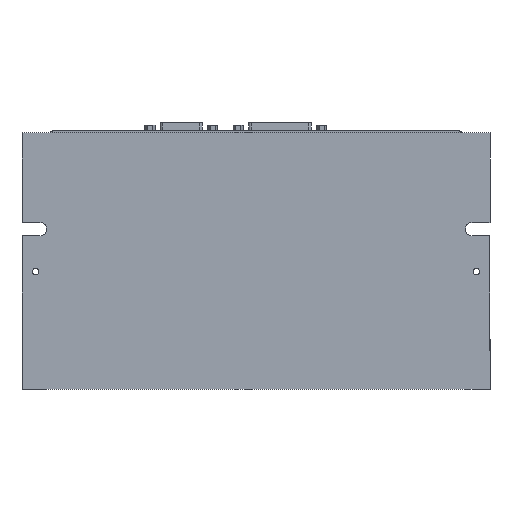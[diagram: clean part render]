
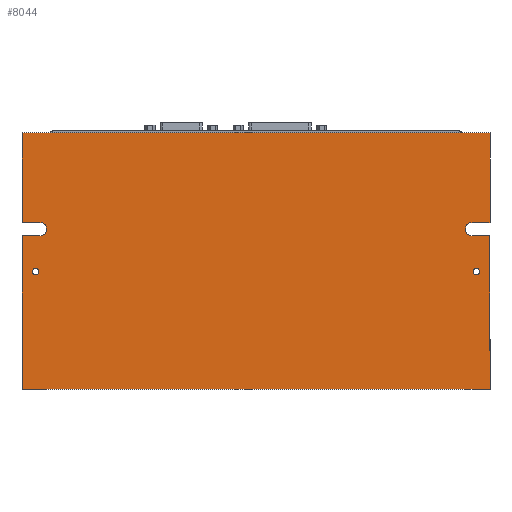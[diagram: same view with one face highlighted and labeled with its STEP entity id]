
A CAD part, front view. The second image highlights one B-rep face of the part: STEP entity #8044.
In plain terms, the highlighted planar face has unit normal (0, -1, 0).
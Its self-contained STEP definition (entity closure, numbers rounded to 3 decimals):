
#138 = DIRECTION ( 'NONE',  ( 1., 0., 0. ) ) ;
#825 = DIRECTION ( 'NONE',  ( 0., -1., 0. ) ) ;
#1340 = ORIENTED_EDGE ( 'NONE', *, *, #33786, .F. ) ;
#1751 = AXIS2_PLACEMENT_3D ( 'NONE', #5803, #41068, #12569 ) ;
#2174 = EDGE_CURVE ( 'NONE', #10850, #72133, #29163, .T. ) ;
#3463 = CIRCLE ( 'NONE', #70275, 1.25 ) ;
#3573 = CIRCLE ( 'NONE', #5235, 1.25 ) ;
#4003 = LINE ( 'NONE', #36769, #39832 ) ;
#4380 = CARTESIAN_POINT ( 'NONE',  ( 0., 0., 9.8 ) ) ;
#4472 = FACE_OUTER_BOUND ( 'NONE', #8499, .T. ) ;
#4654 = EDGE_CURVE ( 'NONE', #19236, #25587, #8131, .T. ) ;
#5012 = EDGE_CURVE ( 'NONE', #31204, #61179, #3463, .T. ) ;
#5235 = AXIS2_PLACEMENT_3D ( 'NONE', #22077, #50574, #51291 ) ;
#5406 = VECTOR ( 'NONE', #34246, 1000. ) ;
#5803 = CARTESIAN_POINT ( 'NONE',  ( 84.25, 0., 12.4 ) ) ;
#6163 = VERTEX_POINT ( 'NONE', #12063 ) ;
#6510 = ORIENTED_EDGE ( 'NONE', *, *, #13371, .F. ) ;
#6566 = DIRECTION ( 'NONE',  ( 0., 0., -1. ) ) ;
#6579 = DIRECTION ( 'NONE',  ( 0., 0., -1. ) ) ;
#7094 = AXIS2_PLACEMENT_3D ( 'NONE', #12106, #17901, #12344 ) ;
#8044 = ADVANCED_FACE ( 'NONE', ( #4472, #66888, #36741 ), #63654, .T. ) ;
#8131 = LINE ( 'NONE', #61723, #66944 ) ;
#8499 = EDGE_LOOP ( 'NONE', ( #38250, #70437, #61745, #29845, #1340, #52009, #54225, #71721, #43585, #72445, #14042, #6510 ) ) ;
#9532 = CARTESIAN_POINT ( 'NONE',  ( 84.25, 0., 15. ) ) ;
#9637 = CARTESIAN_POINT ( 'NONE',  ( 85.95, 0., -5.45 ) ) ;
#10751 = DIRECTION ( 'NONE',  ( 0., 0., -1. ) ) ;
#10850 = VERTEX_POINT ( 'NONE', #57163 ) ;
#11427 = CARTESIAN_POINT ( 'NONE',  ( 85.95, 0., -2.95 ) ) ;
#11787 = DIRECTION ( 'NONE',  ( 1., 0., 0. ) ) ;
#12063 = CARTESIAN_POINT ( 'NONE',  ( -85.95, 0., -5.45 ) ) ;
#12106 = CARTESIAN_POINT ( 'NONE',  ( 0., 0., 0. ) ) ;
#12344 = DIRECTION ( 'NONE',  ( 0., 0., -1. ) ) ;
#12569 = DIRECTION ( 'NONE',  ( 0., 0., -1. ) ) ;
#12597 = LINE ( 'NONE', #21287, #58877 ) ;
#13371 = EDGE_CURVE ( 'NONE', #72133, #45190, #69104, .T. ) ;
#14042 = ORIENTED_EDGE ( 'NONE', *, *, #27428, .F. ) ;
#14459 = EDGE_LOOP ( 'NONE', ( #23843, #56717 ) ) ;
#15232 = EDGE_CURVE ( 'NONE', #6163, #31195, #3573, .T. ) ;
#16930 = CARTESIAN_POINT ( 'NONE',  ( 84.25, 0., 9.8 ) ) ;
#17901 = DIRECTION ( 'NONE',  ( 0., -1., 0. ) ) ;
#18552 = CARTESIAN_POINT ( 'NONE',  ( -91.25, 0., 50. ) ) ;
#19236 = VERTEX_POINT ( 'NONE', #57684 ) ;
#20946 = CARTESIAN_POINT ( 'NONE',  ( 85.95, 0., -4.2 ) ) ;
#21047 = AXIS2_PLACEMENT_3D ( 'NONE', #41793, #825, #6566 ) ;
#21070 = LINE ( 'NONE', #18552, #34450 ) ;
#21287 = CARTESIAN_POINT ( 'NONE',  ( 0., 0., 9.8 ) ) ;
#22077 = CARTESIAN_POINT ( 'NONE',  ( -85.95, 0., -4.2 ) ) ;
#22667 = EDGE_CURVE ( 'NONE', #72625, #25294, #65749, .T. ) ;
#22806 = CARTESIAN_POINT ( 'NONE',  ( 91.25, 0., 9.8 ) ) ;
#23257 = EDGE_CURVE ( 'NONE', #25587, #10850, #21070, .T. ) ;
#23264 = DIRECTION ( 'NONE',  ( 0., 0., 1. ) ) ;
#23734 = CARTESIAN_POINT ( 'NONE',  ( -91.25, 0., 50. ) ) ;
#23843 = ORIENTED_EDGE ( 'NONE', *, *, #73620, .F. ) ;
#25294 = VERTEX_POINT ( 'NONE', #16930 ) ;
#25587 = VERTEX_POINT ( 'NONE', #47795 ) ;
#27350 = CARTESIAN_POINT ( 'NONE',  ( 91.25, 0., 50. ) ) ;
#27428 = EDGE_CURVE ( 'NONE', #45190, #68421, #58140, .T. ) ;
#27982 = DIRECTION ( 'NONE',  ( -1., 0., 0. ) ) ;
#28227 = VECTOR ( 'NONE', #138, 1000. ) ;
#28823 = ORIENTED_EDGE ( 'NONE', *, *, #15232, .F. ) ;
#29163 = LINE ( 'NONE', #4380, #28227 ) ;
#29305 = VERTEX_POINT ( 'NONE', #23734 ) ;
#29845 = ORIENTED_EDGE ( 'NONE', *, *, #56490, .F. ) ;
#30048 = DIRECTION ( 'NONE',  ( 0., 0., 1. ) ) ;
#31195 = VERTEX_POINT ( 'NONE', #60440 ) ;
#31204 = VERTEX_POINT ( 'NONE', #9637 ) ;
#31857 = VERTEX_POINT ( 'NONE', #27350 ) ;
#32016 = DIRECTION ( 'NONE',  ( 1., 0., 0. ) ) ;
#33047 = EDGE_CURVE ( 'NONE', #31195, #6163, #65318, .T. ) ;
#33786 = EDGE_CURVE ( 'NONE', #25294, #71657, #12597, .T. ) ;
#34246 = DIRECTION ( 'NONE',  ( 0., 0., -1. ) ) ;
#34450 = VECTOR ( 'NONE', #30048, 1000. ) ;
#34492 = CARTESIAN_POINT ( 'NONE',  ( 91.25, 0., 50. ) ) ;
#36499 = EDGE_CURVE ( 'NONE', #31857, #37961, #62487, .T. ) ;
#36741 = FACE_BOUND ( 'NONE', #14459, .T. ) ;
#36769 = CARTESIAN_POINT ( 'NONE',  ( 0., 0., 15. ) ) ;
#37525 = LINE ( 'NONE', #51249, #48176 ) ;
#37961 = VERTEX_POINT ( 'NONE', #63326 ) ;
#38137 = EDGE_CURVE ( 'NONE', #37961, #72625, #4003, .T. ) ;
#38250 = ORIENTED_EDGE ( 'NONE', *, *, #2174, .F. ) ;
#38317 = CARTESIAN_POINT ( 'NONE',  ( -84.25, 0., 15. ) ) ;
#39552 = VECTOR ( 'NONE', #54518, 1000. ) ;
#39832 = VECTOR ( 'NONE', #54738, 1000. ) ;
#40134 = CARTESIAN_POINT ( 'NONE',  ( -84.25, 0., 9.8 ) ) ;
#40984 = LINE ( 'NONE', #45824, #47173 ) ;
#41068 = DIRECTION ( 'NONE',  ( 0., -1., 0. ) ) ;
#41793 = CARTESIAN_POINT ( 'NONE',  ( -85.95, 0., -4.2 ) ) ;
#43585 = ORIENTED_EDGE ( 'NONE', *, *, #67109, .F. ) ;
#44938 = VECTOR ( 'NONE', #11787, 1000. ) ;
#44963 = DIRECTION ( 'NONE',  ( 0., -1., 0. ) ) ;
#45190 = VERTEX_POINT ( 'NONE', #38317 ) ;
#45402 = AXIS2_PLACEMENT_3D ( 'NONE', #45491, #44963, #10751 ) ;
#45491 = CARTESIAN_POINT ( 'NONE',  ( 85.95, 0., -4.2 ) ) ;
#45824 = CARTESIAN_POINT ( 'NONE',  ( 91.25, 0., 50. ) ) ;
#47173 = VECTOR ( 'NONE', #6579, 1000. ) ;
#47795 = CARTESIAN_POINT ( 'NONE',  ( -91.25, 0., -50. ) ) ;
#47826 = EDGE_CURVE ( 'NONE', #68421, #29305, #37525, .T. ) ;
#48176 = VECTOR ( 'NONE', #23264, 1000. ) ;
#49574 = ORIENTED_EDGE ( 'NONE', *, *, #33047, .F. ) ;
#49603 = CARTESIAN_POINT ( 'NONE',  ( -84.25, 0., 12.4 ) ) ;
#50574 = DIRECTION ( 'NONE',  ( 0., -1., 0. ) ) ;
#51249 = CARTESIAN_POINT ( 'NONE',  ( -91.25, 0., 50. ) ) ;
#51291 = DIRECTION ( 'NONE',  ( 0., 0., -1. ) ) ;
#52009 = ORIENTED_EDGE ( 'NONE', *, *, #22667, .F. ) ;
#54225 = ORIENTED_EDGE ( 'NONE', *, *, #38137, .F. ) ;
#54314 = EDGE_LOOP ( 'NONE', ( #49574, #28823 ) ) ;
#54518 = DIRECTION ( 'NONE',  ( -1., 0., 0. ) ) ;
#54738 = DIRECTION ( 'NONE',  ( -1., 0., 0. ) ) ;
#56490 = EDGE_CURVE ( 'NONE', #71657, #19236, #40984, .T. ) ;
#56717 = ORIENTED_EDGE ( 'NONE', *, *, #5012, .F. ) ;
#57163 = CARTESIAN_POINT ( 'NONE',  ( -91.25, 0., 9.8 ) ) ;
#57684 = CARTESIAN_POINT ( 'NONE',  ( 91.25, 0., -50. ) ) ;
#58140 = LINE ( 'NONE', #65952, #39552 ) ;
#58877 = VECTOR ( 'NONE', #32016, 1000. ) ;
#59968 = LINE ( 'NONE', #73470, #44938 ) ;
#60440 = CARTESIAN_POINT ( 'NONE',  ( -85.95, 0., -2.95 ) ) ;
#61179 = VERTEX_POINT ( 'NONE', #11427 ) ;
#61723 = CARTESIAN_POINT ( 'NONE',  ( -91.25, 0., -50. ) ) ;
#61745 = ORIENTED_EDGE ( 'NONE', *, *, #4654, .F. ) ;
#62487 = LINE ( 'NONE', #34492, #5406 ) ;
#62976 = CARTESIAN_POINT ( 'NONE',  ( -91.25, 0., 15. ) ) ;
#63326 = CARTESIAN_POINT ( 'NONE',  ( 91.25, 0., 15. ) ) ;
#63654 = PLANE ( 'NONE',  #7094 ) ;
#65318 = CIRCLE ( 'NONE', #21047, 1.25 ) ;
#65749 = CIRCLE ( 'NONE', #1751, 2.6 ) ;
#65952 = CARTESIAN_POINT ( 'NONE',  ( 0., 0., 15. ) ) ;
#66488 = DIRECTION ( 'NONE',  ( 0., 0., -1. ) ) ;
#66733 = DIRECTION ( 'NONE',  ( 0., -1., 0. ) ) ;
#66888 = FACE_BOUND ( 'NONE', #54314, .T. ) ;
#66944 = VECTOR ( 'NONE', #27982, 1000. ) ;
#67109 = EDGE_CURVE ( 'NONE', #29305, #31857, #59968, .T. ) ;
#68421 = VERTEX_POINT ( 'NONE', #62976 ) ;
#69097 = AXIS2_PLACEMENT_3D ( 'NONE', #49603, #66733, #66488 ) ;
#69104 = CIRCLE ( 'NONE', #69097, 2.6 ) ;
#70275 = AXIS2_PLACEMENT_3D ( 'NONE', #20946, #72555, #72307 ) ;
#70437 = ORIENTED_EDGE ( 'NONE', *, *, #23257, .F. ) ;
#71657 = VERTEX_POINT ( 'NONE', #22806 ) ;
#71721 = ORIENTED_EDGE ( 'NONE', *, *, #36499, .F. ) ;
#71815 = CIRCLE ( 'NONE', #45402, 1.25 ) ;
#72133 = VERTEX_POINT ( 'NONE', #40134 ) ;
#72307 = DIRECTION ( 'NONE',  ( 0., 0., -1. ) ) ;
#72445 = ORIENTED_EDGE ( 'NONE', *, *, #47826, .F. ) ;
#72555 = DIRECTION ( 'NONE',  ( 0., -1., 0. ) ) ;
#72625 = VERTEX_POINT ( 'NONE', #9532 ) ;
#73470 = CARTESIAN_POINT ( 'NONE',  ( -91.25, 0., 50. ) ) ;
#73620 = EDGE_CURVE ( 'NONE', #61179, #31204, #71815, .T. ) ;
